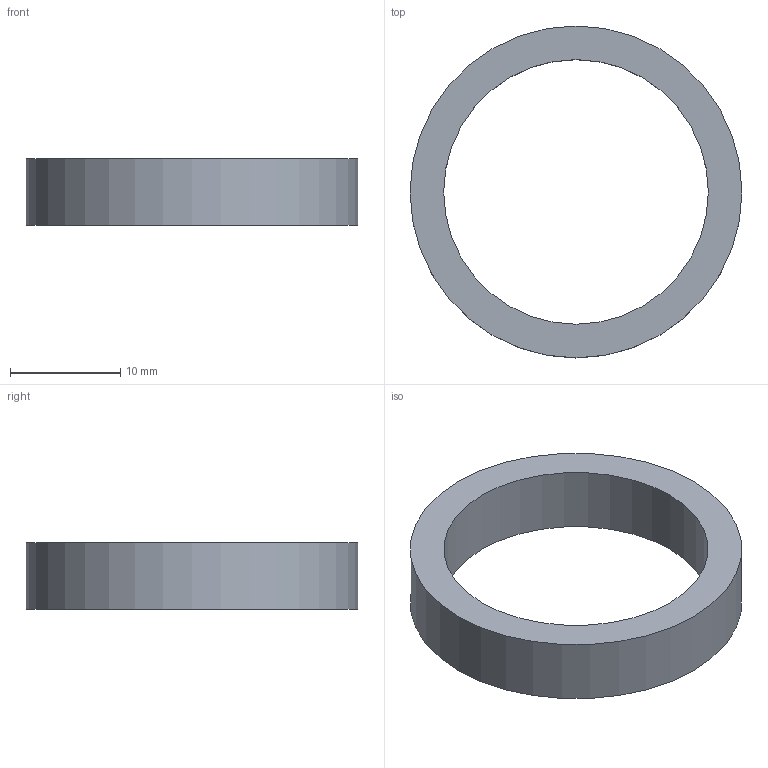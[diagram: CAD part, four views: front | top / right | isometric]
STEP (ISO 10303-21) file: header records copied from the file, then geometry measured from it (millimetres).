
FILE_DESCRIPTION(('FreeCAD Model'),'2;1');
FILE_NAME('Open CASCADE Shape Model','2026-11-20T08:25:38',('FreeCAD'),( 'FreeCAD'),'Open CASCADE STEP processor 7.8','FreeCAD','Unknown');
FILE_SCHEMA(('AUTOMOTIVE_DESIGN { 1 0 10303 214 1 1 1 1 }'));
Length unit declared in the file: millimetre
Products named in the file (1): Open CASCADE STEP translator 7.8 35
Bounding box: 30.1 x 30.1 x 6 mm (x, y, z)
Volume: 1555.1 mm3; surface area: 1538.1 mm2
Topology: 1 solids, 1 shells, 4 faces, 6 edges, 4 vertices
Faces by surface type: cylinder 2, plane 2
Full cylindrical faces by diameter (mm): 24 x1, 30.1 x1
Entity records: 108 total; most frequent: DIRECTION 20, CARTESIAN_POINT 15, ORIENTED_EDGE 12, AXIS2_PLACEMENT_3D 9, FACE_BOUND 6, EDGE_LOOP 6, EDGE_CURVE 6, ADVANCED_FACE 4
